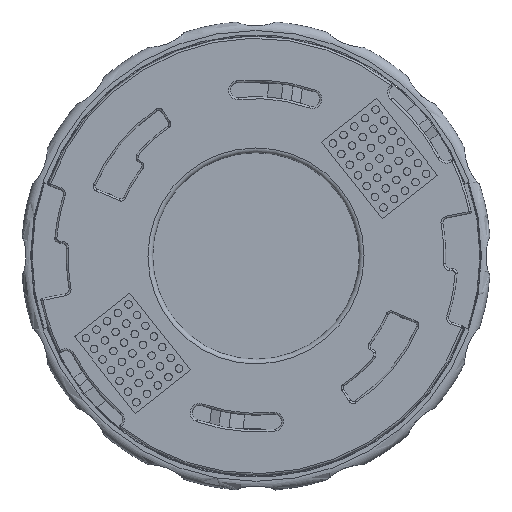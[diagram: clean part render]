
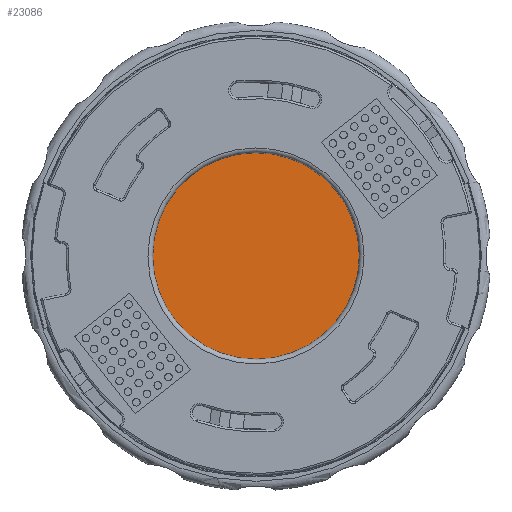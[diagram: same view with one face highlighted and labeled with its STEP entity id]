
A CAD part, top view. The second image highlights one B-rep face of the part: STEP entity #23086.
In plain terms, the highlighted planar face has unit normal (0, 0, 1).
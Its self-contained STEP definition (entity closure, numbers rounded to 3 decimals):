
#1466=CIRCLE('',#25023,12.75);
#5999=ORIENTED_EDGE('',*,*,#10591,.F.);
#10591=EDGE_CURVE('',#13265,#13265,#1466,.T.);
#13265=VERTEX_POINT('',#38469);
#19240=EDGE_LOOP('',(#5999));
#20846=FACE_BOUND('',#19240,.T.);
#21916=PLANE('',#25022);
#23086=ADVANCED_FACE('',(#20846),#21916,.T.);
#25022=AXIS2_PLACEMENT_3D('',#38467,#30060,#30061);
#25023=AXIS2_PLACEMENT_3D('',#38468,#30062,#30063);
#30060=DIRECTION('',(0.,0.,1.));
#30061=DIRECTION('',(1.,0.,0.));
#30062=DIRECTION('',(0.,0.,-1.));
#30063=DIRECTION('',(-1.,0.,0.));
#38467=CARTESIAN_POINT('',(0.,0.,5.2));
#38468=CARTESIAN_POINT('',(0.,0.,5.2));
#38469=CARTESIAN_POINT('',(-12.75,0.,5.2));
